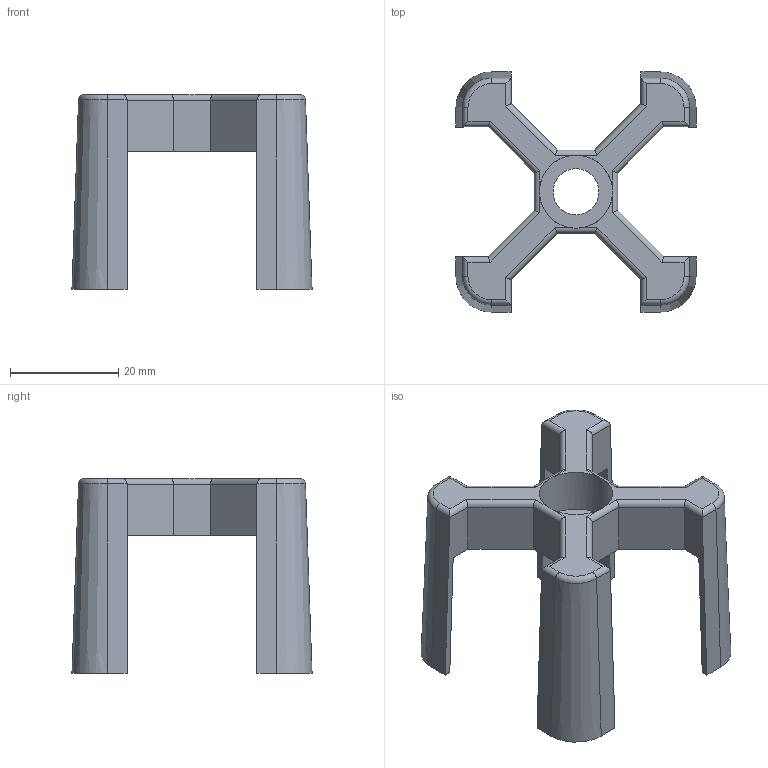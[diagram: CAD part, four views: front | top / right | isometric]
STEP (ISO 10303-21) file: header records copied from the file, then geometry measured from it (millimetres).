
FILE_DESCRIPTION((''),'2;1');
FILE_NAME('E:\catalogue and flyer\Profile catalogue 2015\Accessories ACC info\Accessories ACC step file 31Mar16\ACC-ECSC8 40x40.stp','2016-03-31T14:50:15',('h029'),(''),'Autodesk Inventor 11','Autodesk Inventor 11','');
FILE_SCHEMA(('AUTOMOTIVE_DESIGN { 1 0 10303 214 1 1 1 1 }'));
Length unit declared in the file: millimetre
Products named in the file (1): ACC-TSC40x40-8
Bounding box: 44.38 x 44.38 x 36 mm (x, y, z)
Volume: 6049 mm3; surface area: 9051.6 mm2
Topology: 1 solids, 1 shells, 124 faces, 326 edges, 204 vertices
Faces by surface type: plane 73, cylinder 36, cone 8, torus 4, bspline 3
Entity records: 3831 total; most frequent: CARTESIAN_POINT 724, ORIENTED_EDGE 646, DIRECTION 642, EDGE_CURVE 323, VECTOR 240, LINE 240, VERTEX_POINT 203, AXIS2_PLACEMENT_3D 201
